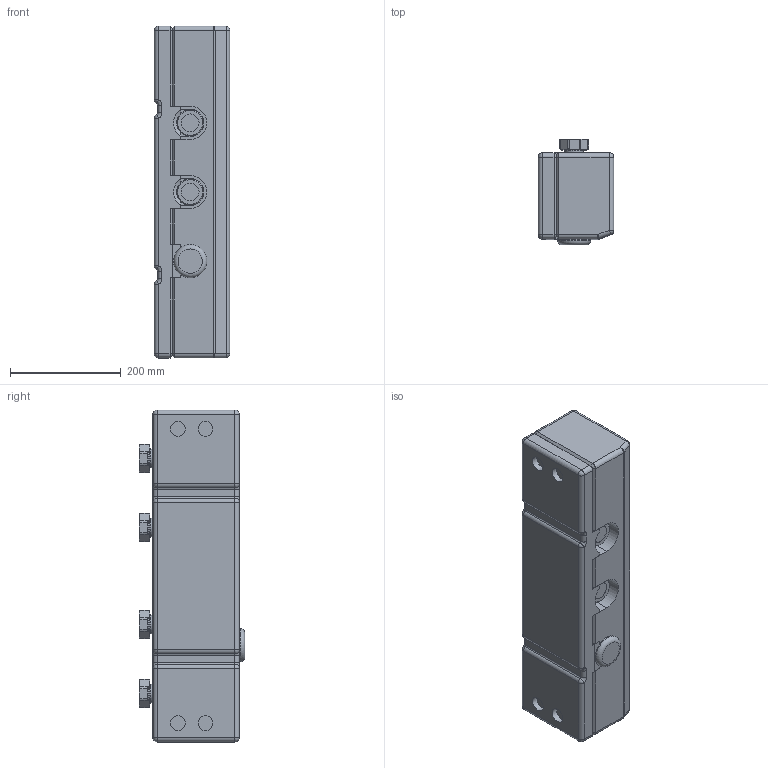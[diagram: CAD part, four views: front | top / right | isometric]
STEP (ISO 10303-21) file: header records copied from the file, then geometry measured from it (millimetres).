
FILE_DESCRIPTION((''),'2;1');
FILE_NAME('C:\Users\duckj\Desktop\10025900.stp','2017-04-25T15:48:22',('duckj'),(''),'Autodesk Inventor 2013','Autodesk Inventor 2013','');
FILE_SCHEMA(('CONFIG_CONTROL_DESIGN'));
Length unit declared in the file: millimetre
Products named in the file (4): 3446300-IA; 25042017_013; 25042017_007; 25042017_008
Assembly tree (3 placements, depth 2):
  3446300-IA
    25042017_013
    25042017_007
    25042017_008
Bounding box: 136.5 x 190.7 x 600 mm (x, y, z)
Volume: 11382232.8 mm3; surface area: 1066141.6 mm2
Topology: 3 solids, 3 shells, 711 faces, 1887 edges, 1179 vertices
Faces by surface type: plane 341, cylinder 217, bspline 64, cone 39, torus 32, sphere 18
Full cylindrical faces by diameter (mm): 21 x4, 27 x8, 28 x4, 32 x2, 33 x4, 34 x4, 38 x1, 41 x4, 43 x2, 44.5 x4, 44.845 x8, 46 x1, 47.8 x1, 47.803 x1, 50 x1, 60 x1
Entity records: 24206 total; most frequent: CARTESIAN_POINT 7080, ORIENTED_EDGE 3492, DIRECTION 3318, EDGE_CURVE 1746, AXIS2_PLACEMENT_3D 1220, VERTEX_POINT 1148, VECTOR 878, LINE 878
